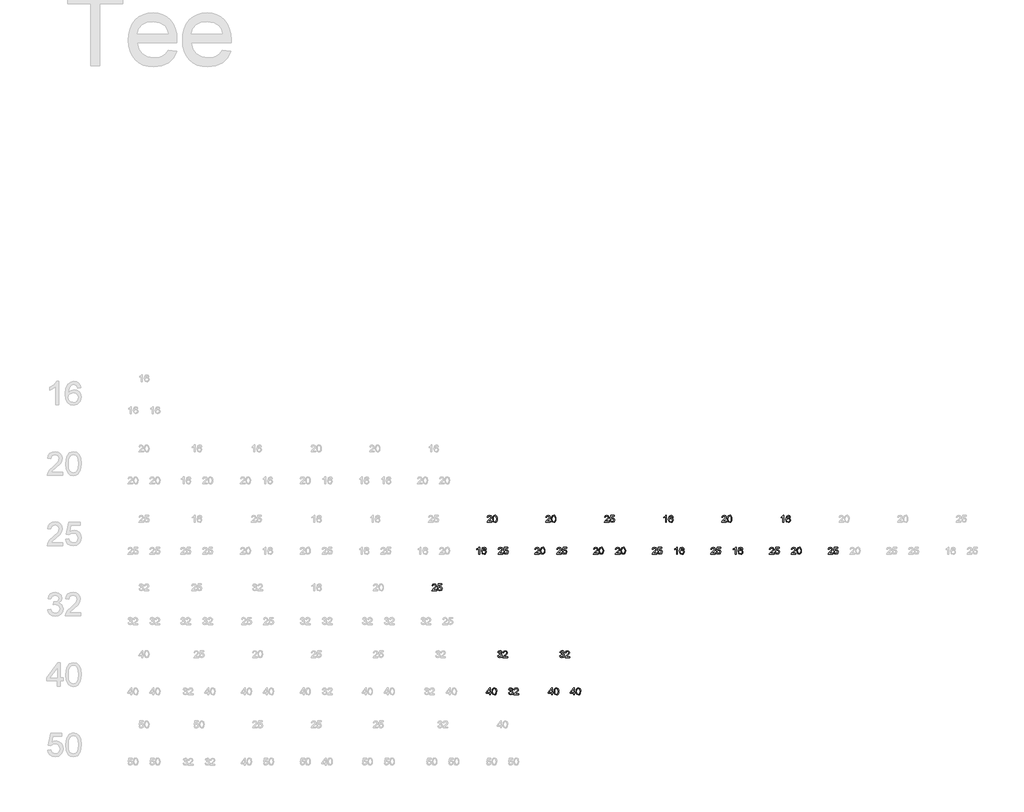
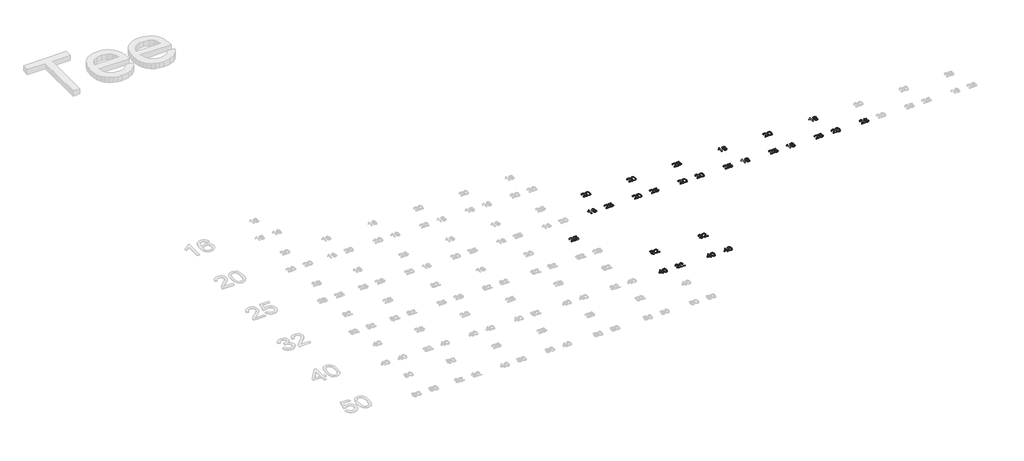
# One storey, part 19 of 26: 26 proxies.
"""IFC4 building model written with IfcOpenShell, lengths in millimetres."""

import ifcopenshell
import ifcopenshell.guid

model = None  # the IFC model being written
_history = None  # IfcOwnerHistory: only IFC2X3 demands one
_inside = {}  # id of a spatial element -> (the spatial element, [elements in it])
_under = {}  # id of a project, library or spatial element -> (it, [spatial elements below it])
_declared = {}  # id of a project -> (the project, [libraries it declares])
_typed = {}  # id of a type object -> (the type object, [elements of that type])
_made_of = {}  # id of a material, layer set ... -> (it, [elements and type objects made of it])


def new_model(schema):
    """Start an empty IFC model of exactly this schema.

    Asked for "IFC4X3", IfcOpenShell would pick the latest addendum, in which some entities
    have other attributes; the version numbers below select the first issue.
    IFC2X3 requires an IfcOwnerHistory on every rooted entity: one is made here for all.
    """
    global model, _history
    if schema == "IFC4X3":
        model = ifcopenshell.file(schema_version=(4, 3, 0, 0))
    else:
        model = ifcopenshell.file(schema=schema)
    _inside.clear()
    _under.clear()
    _declared.clear()
    _typed.clear()
    _made_of.clear()
    _history = None
    if model.schema == "IFC2X3":
        org = make("IfcOrganization", Name="unknown")
        user = make(
            "IfcPersonAndOrganization",
            ThePerson=make("IfcPerson", FamilyName="unknown"),
            TheOrganization=org,
        )
        app = make(
            "IfcApplication",
            ApplicationDeveloper=org,
            Version="unknown",
            ApplicationFullName="unknown",
            ApplicationIdentifier="unknown",
        )
        _history = make(
            "IfcOwnerHistory",
            OwningUser=user,
            OwningApplication=app,
            ChangeAction="ADDED",
            CreationDate=0,
        )
    return model


def make(cls, **values):
    """One entity of the class cls with the attributes given. An attribute that is None is left unset."""
    return model.create_entity(
        cls, **{name: value for name, value in values.items() if value is not None}
    )


def rooted(cls, **values):
    """An entity with a GlobalId (a new one), such as an element, a storey or a relation."""
    return make(cls, GlobalId=ifcopenshell.guid.new(), OwnerHistory=_history, **values)


def si_unit(unit_type, name, prefix=None):
    """IfcSIUnit, for example si_unit("LENGTHUNIT", "METRE", prefix="MILLI")."""
    return make("IfcSIUnit", UnitType=unit_type, Prefix=prefix, Name=name)


def assignment(units):
    """IfcUnitAssignment: the units of a project."""
    return None if units is None else make("IfcUnitAssignment", Units=units)


def point(xyz):
    """IfcCartesianPoint."""
    return None if xyz is None else make("IfcCartesianPoint", Coordinates=xyz)


def direction(xyz):
    """IfcDirection."""
    return None if xyz is None else make("IfcDirection", DirectionRatios=xyz)


def frame(location, z_axis=None, x_axis=None):
    """IfcAxis2Placement3D, a coordinate frame: its origin and axes. An axis left out is left unset."""
    return make(
        "IfcAxis2Placement3D",
        Location=point(location),
        Axis=direction(z_axis),
        RefDirection=direction(x_axis),
    )


def origin():
    """The frame at (0, 0, 0) with its axes left unset."""
    return frame((0.0, 0.0, 0.0))


def origin_with_axes():
    """The frame at (0, 0, 0) with the z axis (0, 0, 1) and the x axis (1, 0, 0) written out."""
    return frame((0.0, 0.0, 0.0), z_axis=(0.0, 0.0, 1.0), x_axis=(1.0, 0.0, 0.0))


def place(relative_to, where):
    """IfcLocalPlacement: puts the frame where relative to a parent placement (None: the world)."""
    return make(
        "IfcLocalPlacement", PlacementRelTo=relative_to, RelativePlacement=where
    )


def context(
    kind, dimensions, precision=None, world=None, true_north=None, identifier=None
):
    """IfcGeometricRepresentationContext, for example the 3D "Model" context."""
    return make(
        "IfcGeometricRepresentationContext",
        ContextIdentifier=identifier,
        ContextType=kind,
        CoordinateSpaceDimension=dimensions,
        Precision=precision,
        WorldCoordinateSystem=world,
        TrueNorth=true_north,
    )


def project(units=None, contexts=None):
    """IfcProject with its units and contexts."""
    return rooted(
        "IfcProject",
        Name="project",
        RepresentationContexts=contexts,
        UnitsInContext=assignment(units),
    )


def spatial(cls, under=None, at=None, **own):
    """A site, building, storey or space (cls), placed at a placement, below another one or the project."""
    s = rooted(cls, ObjectPlacement=at, **own)
    if under is not None:
        _under.setdefault(under.id(), (under, []))[1].append(s)
    return s


def polyline(points):
    """IfcPolyline through the points."""
    return make("IfcPolyline", Points=[point(p) for p in points])


def outline(outer, holes=None, kind="AREA"):
    """IfcArbitraryClosedProfileDef: a profile drawn as a closed curve; with holes, ...WithVoids."""
    if holes is None:
        return make("IfcArbitraryClosedProfileDef", ProfileType=kind, OuterCurve=outer)
    return make(
        "IfcArbitraryProfileDefWithVoids",
        ProfileType=kind,
        OuterCurve=outer,
        InnerCurves=holes,
    )


def extrude(swept, where, along, depth):
    """IfcExtrudedAreaSolid: the profile swept, set in the frame where, extruded along a direction by depth."""
    return make(
        "IfcExtrudedAreaSolid",
        SweptArea=swept,
        Position=where,
        ExtrudedDirection=direction(along),
        Depth=depth,
    )


def shape(context_of_items, identifier, shape_type, items):
    """IfcShapeRepresentation: the items that make up one representation, for example the "Body"."""
    return make(
        "IfcShapeRepresentation",
        ContextOfItems=context_of_items,
        RepresentationIdentifier=identifier,
        RepresentationType=shape_type,
        Items=items,
    )


def made_of(thing, what):
    """Note that an element or type object is made of a material, layer set ...; save() writes the relation."""
    if what is not None:
        _made_of.setdefault(what.id(), (what, []))[1].append(thing)
    return thing


def element(
    cls,
    number,
    at=None,
    inside=None,
    cuts=None,
    type_object=None,
    material=None,
    context=None,
    identifier="Body",
    shape_type=None,
    held_by="IfcProductDefinitionShape",
    body=None,
    shapes=None,
    **own,
):
    """One element of the class cls, such as IfcWall. Its Tag is "e" and its number.

    at: its placement. inside: the storey or other place that contains it. cuts: it is an
    opening in that element (IfcRelVoidsElement). A single representation is given by context,
    identifier, shape_type and body (its items); several are given by shapes. held_by: the class
    of the entity that holds the representations. save() writes the other relations.
    """
    e = rooted(cls, Tag="e%d" % number, ObjectPlacement=at, **own)
    if body is not None:
        shapes = [shape(context, identifier, shape_type, body)]
    if shapes is not None:
        e.Representation = make(held_by, Representations=shapes)
    if inside is not None:
        _inside.setdefault(inside.id(), (inside, []))[1].append(e)
    if cuts is not None:
        rooted(
            "IfcRelVoidsElement", RelatingBuildingElement=cuts, RelatedOpeningElement=e
        )
    if type_object is not None:
        _typed.setdefault(type_object.id(), (type_object, []))[1].append(e)
    return made_of(e, material)


def aggregate(whole, parts):
    """IfcRelAggregates: a whole, such as a stair, and the parts it consists of."""
    return rooted("IfcRelAggregates", RelatingObject=whole, RelatedObjects=parts)


def save(model, path):
    """Write the relations noted so far, then the file.

    IfcRelAggregates (storeys below a building ...), IfcRelContainedInSpatialStructure (elements
    in a storey), IfcRelDefinesByType, IfcRelAssociatesMaterial and IfcRelDeclares: one each for
    every whole, place, type object, material and project.
    """
    for whole, parts in _under.values():
        aggregate(whole, parts)
    for where, things in _inside.values():
        rooted(
            "IfcRelContainedInSpatialStructure",
            RelatedElements=things,
            RelatingStructure=where,
        )
    for kind, things in _typed.values():
        rooted("IfcRelDefinesByType", RelatedObjects=things, RelatingType=kind)
    for what, things in _made_of.values():
        rooted("IfcRelAssociatesMaterial", RelatedObjects=things, RelatingMaterial=what)
    for by, libraries in _declared.values():
        rooted("IfcRelDeclares", RelatingContext=by, RelatedDefinitions=libraries)
    model.write(path)


model = new_model("IFC4")

# Units and contexts
model_context = context("Model", 3, world=origin())
ifc_project = project(units=[si_unit("LENGTHUNIT", "METRE", prefix="MILLI")], contexts=[model_context])

# Site, building, storey
site = spatial("IfcSite", under=ifc_project)
building = spatial("IfcBuilding", under=site)
storey = spatial("IfcBuildingStorey", under=building, Name="Superpipe UFH", Elevation=0.0)

# Proxies
placement = place(None, origin())
element("IfcBuildingElementProxy", 1, Name="30mm Arial", ObjectType="30mm Arial", at=placement, inside=storey, context=model_context, shape_type="SweptSolid", body=[
    extrude(outline(polyline([(27013.9090947, 23688.5299634), (27010.1419831, 23688.5299634), (27010.1419831, 23712.01555), (27006.5735277, 23709.4734854), (27002.6077598, 23707.5715355), (27002.6077598, 23711.1326332), (27008.1296686, 23714.6569427), (27011.4810736, 23718.6668565), (27013.9090947, 23718.6668565), (27013.9090947, 23688.5299634)])), origin_with_axes(), (0.0, 0.0, 1.0), 2.0),
    extrude(outline(polyline([(27042.162432, 23710.6617442), (27038.3953203, 23710.1908553), (27036.9679382, 23713.3325675), (27033.1934689, 23714.8997448), (27029.7942393, 23713.9873975), (27027.2227441, 23710.5624161), (27026.1522075, 23703.8485697), (27029.4741819, 23706.8541656), (27033.5907815, 23707.8364105), (27039.9919282, 23705.150872), (27042.6333209, 23698.2126175), (27041.3898798, 23693.0144449), (27037.9685772, 23689.335625), (27033.0316008, 23688.0590745), (27025.3539036, 23691.4435888), (27022.3850959, 23702.5977709), (27025.6813186, 23715.2308386), (27033.4289134, 23718.6668565), (27039.3812441, 23716.5404985), (27042.162432, 23710.6617442)]), holes=[polyline([(27026.1522075, 23698.2714786), (27027.0240879, 23695.0083653), (27029.3417444, 23692.6392053), (27032.7372952, 23691.8261861), (27037.1776309, 23693.5110856), (27038.8662093, 23698.0875376), (27037.1997038, 23702.4690122), (27032.5827848, 23704.0692989), (27028.0247269, 23702.4690122), (27026.1522075, 23698.2714786)])]), origin_with_axes(), (0.0, 0.0, 1.0), 2.0),
])
element("IfcBuildingElementProxy", 2, Name="30mm Arial", ObjectType="30mm Arial", at=placement, inside=storey, context=model_context, shape_type="SweptSolid", body=[
    extrude(outline(polyline([(27112.8388732, 23692.297075), (27112.8388732, 23688.5299634), (27093.0615372, 23688.5299634), (27093.4662074, 23691.1272103), (27095.7544334, 23695.1260876), (27100.4706805, 23699.4928469), (27106.9748342, 23705.7689137), (27108.6008726, 23710.0363449), (27107.0668047, 23713.4907568), (27103.0605698, 23714.8997448), (27098.8851091, 23713.5238662), (27097.2995377, 23709.7199663), (27093.5324261, 23710.1908553), (27096.4202998, 23716.4963527), (27103.1415038, 23718.6668565), (27109.8847808, 23716.2535506), (27112.3679843, 23710.2644317), (27111.698439, 23706.6922975), (27109.472753, 23702.9987623), (27104.0759241, 23697.8373779), (27099.7422742, 23694.2137402), (27098.0426594, 23692.297075), (27112.8388732, 23692.297075)])), origin_with_axes(), (0.0, 0.0, 1.0), 2.0),
    extrude(outline(polyline([(27116.6059849, 23696.5350756), (27120.3730965, 23697.0059646), (27122.2713676, 23693.1248095), (27126.2077049, 23691.8261861), (27130.9313097, 23693.6324867), (27132.6162093, 23698.4259891), (27131.0379955, 23702.8994341), (27126.266566, 23704.5401878), (27122.9593069, 23703.8853579), (27120.8439854, 23702.1857431), (27117.0768738, 23702.656632), (27120.3730965, 23718.1959675), (27134.9706541, 23718.1959675), (27134.9706541, 23714.4288559), (27123.4191594, 23714.4288559), (27121.8078363, 23706.1294381), (27127.3187086, 23708.3072995), (27133.7603223, 23705.6070456), (27136.3833209, 23698.6614336), (27134.0215185, 23691.6716757), (27126.1929896, 23688.0590745), (27119.545362, 23690.3804098), (27116.6059849, 23696.5350756)])), origin_with_axes(), (0.0, 0.0, 1.0), 2.0),
])
element("IfcBuildingElementProxy", 3, Name="30mm Arial", ObjectType="30mm Arial", at=placement, inside=storey, context=model_context, shape_type="SweptSolid", body=[
    extrude(outline(polyline([(27066.017058, 23828.6157156), (27066.017058, 23824.848604), (27046.239722, 23824.848604), (27046.6443922, 23827.4458509), (27048.9326182, 23831.4447281), (27053.6488654, 23835.8114874), (27060.153019, 23842.0875543), (27061.7790574, 23846.3549854), (27060.2449895, 23849.8093973), (27056.2387546, 23851.2183854), (27052.063294, 23849.8425067), (27050.4777226, 23846.0386069), (27046.7106109, 23846.5094959), (27049.5984846, 23852.8149932), (27056.3196886, 23854.985497), (27063.0629656, 23852.5721911), (27065.5461691, 23846.5830723), (27064.8766238, 23843.0109381), (27062.6509378, 23839.3174028), (27057.2541089, 23834.1560185), (27052.920459, 23830.5323808), (27051.2208442, 23828.6157156), (27066.017058, 23828.6157156)])), origin_with_axes(), (0.0, 0.0, 1.0), 2.0),
    extrude(outline(polyline([(27069.7841697, 23839.6742484), (27070.8914945, 23848.345227), (27074.1803595, 23853.3447433), (27079.6728377, 23854.985497), (27084.0727064, 23854.0142886), (27087.1114116, 23851.2147066), (27088.8772452, 23846.7559768), (27089.5615057, 23839.6742484), (27088.4652174, 23831.040058), (27085.1873888, 23826.0295052), (27079.6728377, 23824.377715), (27072.7860867, 23827.2471946), (27069.7841697, 23839.6742484)]), holes=[polyline([(27073.5512813, 23839.681606), (27075.3171149, 23830.3263669), (27079.6728377, 23828.1448267), (27084.0285605, 23830.3337245), (27085.7943941, 23839.681606), (27084.0874216, 23848.9301594), (27079.6286919, 23851.2183854), (27075.375976, 23849.2023921), (27073.5512813, 23839.681606)])]), origin_with_axes(), (0.0, 0.0, 1.0), 2.0),
])
element("IfcBuildingElementProxy", 4, Name="30mm Arial", ObjectType="30mm Arial", at=placement, inside=storey, context=model_context, shape_type="SweptSolid", body=[
    extrude(outline(polyline([(27269.3689725, 23692.297075), (27269.3689725, 23688.5299634), (27249.5916365, 23688.5299634), (27249.9963067, 23691.1272103), (27252.2845327, 23695.1260876), (27257.0007799, 23699.4928469), (27263.5049335, 23705.7689137), (27265.130972, 23710.0363449), (27263.596904, 23713.4907568), (27259.5906691, 23714.8997448), (27255.4152085, 23713.5238662), (27253.8296371, 23709.7199663), (27250.0625254, 23710.1908553), (27252.9503991, 23716.4963527), (27259.6716031, 23718.6668565), (27266.4148801, 23716.2535506), (27268.8980836, 23710.2644317), (27268.2285383, 23706.6922975), (27266.0028523, 23702.9987623), (27260.6060234, 23697.8373779), (27256.2723735, 23694.2137402), (27254.5727587, 23692.297075), (27269.3689725, 23692.297075)])), origin_with_axes(), (0.0, 0.0, 1.0), 2.0),
    extrude(outline(polyline([(27273.1360842, 23703.3556078), (27274.243409, 23712.0265864), (27277.532274, 23717.0261028), (27283.0247522, 23718.6668565), (27287.4246209, 23717.695648), (27290.4633261, 23714.896066), (27292.2291597, 23710.4373362), (27292.9134202, 23703.3556078), (27291.8171319, 23694.7214174), (27288.5393033, 23689.7108646), (27283.0247522, 23688.0590745), (27276.1380012, 23690.928554), (27273.1360842, 23703.3556078)]), holes=[polyline([(27276.9031958, 23703.3629655), (27278.6690294, 23694.0077263), (27283.0247522, 23691.8261861), (27287.380475, 23694.015084), (27289.1463086, 23703.3629655), (27287.4393361, 23712.6115188), (27282.9806064, 23714.8997448), (27278.7278905, 23712.8837515), (27276.9031958, 23703.3629655)])]), origin_with_axes(), (0.0, 0.0, 1.0), 2.0),
])
element("IfcBuildingElementProxy", 5, Name="30mm Arial", ObjectType="30mm Arial", at=placement, inside=storey, context=model_context, shape_type="SweptSolid", body=[
    extrude(outline(polyline([(27363.1189725, 23692.297075), (27363.1189725, 23688.5299634), (27343.3416365, 23688.5299634), (27343.7463067, 23691.1272103), (27346.0345327, 23695.1260876), (27350.7507799, 23699.4928469), (27357.2549335, 23705.7689137), (27358.880972, 23710.0363449), (27357.346904, 23713.4907568), (27353.3406691, 23714.8997448), (27349.1652085, 23713.5238662), (27347.5796371, 23709.7199663), (27343.8125254, 23710.1908553), (27346.7003991, 23716.4963527), (27353.4216031, 23718.6668565), (27360.1648801, 23716.2535506), (27362.6480836, 23710.2644317), (27361.9785383, 23706.6922975), (27359.7528523, 23702.9987623), (27354.3560234, 23697.8373779), (27350.0223735, 23694.2137402), (27348.3227587, 23692.297075), (27363.1189725, 23692.297075)])), origin_with_axes(), (0.0, 0.0, 1.0), 2.0),
    extrude(outline(polyline([(27366.8860842, 23696.5350756), (27370.6531958, 23697.0059646), (27372.5514669, 23693.1248095), (27376.4878042, 23691.8261861), (27381.2114091, 23693.6324867), (27382.8963086, 23698.4259891), (27381.3180948, 23702.8994341), (27376.5466654, 23704.5401878), (27373.2394062, 23703.8853579), (27371.1240847, 23702.1857431), (27367.3569731, 23702.656632), (27370.6531958, 23718.1959675), (27385.2507534, 23718.1959675), (27385.2507534, 23714.4288559), (27373.6992587, 23714.4288559), (27372.0879356, 23706.1294381), (27377.5988079, 23708.3072995), (27384.0404216, 23705.6070456), (27386.6634202, 23698.6614336), (27384.3016178, 23691.6716757), (27376.473089, 23688.0590745), (27369.8254613, 23690.3804098), (27366.8860842, 23696.5350756)])), origin_with_axes(), (0.0, 0.0, 1.0), 2.0),
])
element("IfcBuildingElementProxy", 6, Name="30mm Arial", ObjectType="30mm Arial", at=placement, inside=storey, context=model_context, shape_type="SweptSolid", body=[
    extrude(outline(polyline([(27316.2971573, 23828.6157156), (27316.2971573, 23824.848604), (27296.5198213, 23824.848604), (27296.9244915, 23827.4458509), (27299.2127175, 23831.4447281), (27303.9289647, 23835.8114874), (27310.4331183, 23842.0875543), (27312.0591568, 23846.3549854), (27310.5250888, 23849.8093973), (27306.5188539, 23851.2183854), (27302.3433933, 23849.8425067), (27300.7578219, 23846.0386069), (27296.9907102, 23846.5094959), (27299.8785839, 23852.8149932), (27306.5997879, 23854.985497), (27313.3430649, 23852.5721911), (27315.8262684, 23846.5830723), (27315.1567232, 23843.0109381), (27312.9310371, 23839.3174028), (27307.5342082, 23834.1560185), (27303.2005583, 23830.5323808), (27301.5009435, 23828.6157156), (27316.2971573, 23828.6157156)])), origin_with_axes(), (0.0, 0.0, 1.0), 2.0),
    extrude(outline(polyline([(27320.064269, 23839.6742484), (27321.1715938, 23848.345227), (27324.4604588, 23853.3447433), (27329.952937, 23854.985497), (27334.3528057, 23854.0142886), (27337.3915109, 23851.2147066), (27339.1573445, 23846.7559768), (27339.841605, 23839.6742484), (27338.7453167, 23831.040058), (27335.4674881, 23826.0295052), (27329.952937, 23824.377715), (27323.0661861, 23827.2471946), (27320.064269, 23839.6742484)]), holes=[polyline([(27323.8313806, 23839.681606), (27325.5972142, 23830.3263669), (27329.952937, 23828.1448267), (27334.3086598, 23830.3337245), (27336.0744934, 23839.681606), (27334.3675209, 23848.9301594), (27329.9087912, 23851.2183854), (27325.6560753, 23849.2023921), (27323.8313806, 23839.681606)])]), origin_with_axes(), (0.0, 0.0, 1.0), 2.0),
])
element("IfcBuildingElementProxy", 7, Name="30mm Arial", ObjectType="30mm Arial", at=placement, inside=storey, context=model_context, shape_type="SweptSolid", body=[
    extrude(outline(polyline([(27519.6490718, 23692.297075), (27519.6490718, 23688.5299634), (27499.8717358, 23688.5299634), (27500.276406, 23691.1272103), (27502.564632, 23695.1260876), (27507.2808792, 23699.4928469), (27513.7850328, 23705.7689137), (27515.4110713, 23710.0363449), (27513.8770033, 23713.4907568), (27509.8707684, 23714.8997448), (27505.6953078, 23713.5238662), (27504.1097364, 23709.7199663), (27500.3426247, 23710.1908553), (27503.2304984, 23716.4963527), (27509.9517025, 23718.6668565), (27516.6949794, 23716.2535506), (27519.1781829, 23710.2644317), (27518.5086377, 23706.6922975), (27516.2829516, 23702.9987623), (27510.8861227, 23697.8373779), (27506.5524728, 23694.2137402), (27504.852858, 23692.297075), (27519.6490718, 23692.297075)])), origin_with_axes(), (0.0, 0.0, 1.0), 2.0),
    extrude(outline(polyline([(27523.4161835, 23703.3556078), (27524.5235083, 23712.0265864), (27527.8123733, 23717.0261028), (27533.3048515, 23718.6668565), (27537.7047202, 23717.695648), (27540.7434254, 23714.896066), (27542.509259, 23710.4373362), (27543.1935195, 23703.3556078), (27542.0972312, 23694.7214174), (27538.8194026, 23689.7108646), (27533.3048515, 23688.0590745), (27526.4181006, 23690.928554), (27523.4161835, 23703.3556078)]), holes=[polyline([(27527.1832951, 23703.3629655), (27528.9491287, 23694.0077263), (27533.3048515, 23691.8261861), (27537.6605743, 23694.015084), (27539.4264079, 23703.3629655), (27537.7194354, 23712.6115188), (27533.2607057, 23714.8997448), (27529.0079898, 23712.8837515), (27527.1832951, 23703.3629655)])]), origin_with_axes(), (0.0, 0.0, 1.0), 2.0),
])
element("IfcBuildingElementProxy", 8, Name="30mm Arial", ObjectType="30mm Arial", at=placement, inside=storey, context=model_context, shape_type="SweptSolid", body=[
    extrude(outline(polyline([(27613.3990718, 23692.297075), (27613.3990718, 23688.5299634), (27593.6217358, 23688.5299634), (27594.026406, 23691.1272103), (27596.314632, 23695.1260876), (27601.0308792, 23699.4928469), (27607.5350328, 23705.7689137), (27609.1610713, 23710.0363449), (27607.6270033, 23713.4907568), (27603.6207684, 23714.8997448), (27599.4453078, 23713.5238662), (27597.8597364, 23709.7199663), (27594.0926247, 23710.1908553), (27596.9804984, 23716.4963527), (27603.7017025, 23718.6668565), (27610.4449794, 23716.2535506), (27612.9281829, 23710.2644317), (27612.2586377, 23706.6922975), (27610.0329516, 23702.9987623), (27604.6361227, 23697.8373779), (27600.3024728, 23694.2137402), (27598.602858, 23692.297075), (27613.3990718, 23692.297075)])), origin_with_axes(), (0.0, 0.0, 1.0), 2.0),
    extrude(outline(polyline([(27617.1661835, 23703.3556078), (27618.2735083, 23712.0265864), (27621.5623733, 23717.0261028), (27627.0548515, 23718.6668565), (27631.4547202, 23717.695648), (27634.4934254, 23714.896066), (27636.259259, 23710.4373362), (27636.9435195, 23703.3556078), (27635.8472312, 23694.7214174), (27632.5694026, 23689.7108646), (27627.0548515, 23688.0590745), (27620.1681006, 23690.928554), (27617.1661835, 23703.3556078)]), holes=[polyline([(27620.9332951, 23703.3629655), (27622.6991287, 23694.0077263), (27627.0548515, 23691.8261861), (27631.4105743, 23694.015084), (27633.1764079, 23703.3629655), (27631.4694354, 23712.6115188), (27627.0107057, 23714.8997448), (27622.7579898, 23712.8837515), (27620.9332951, 23703.3629655)])]), origin_with_axes(), (0.0, 0.0, 1.0), 2.0),
])
element("IfcBuildingElementProxy", 9, Name="30mm Arial", ObjectType="30mm Arial", at=placement, inside=storey, context=model_context, shape_type="SweptSolid", body=[
    extrude(outline(polyline([(27566.5772567, 23828.6157156), (27566.5772567, 23824.848604), (27546.7999206, 23824.848604), (27547.2045908, 23827.4458509), (27549.4928168, 23831.4447281), (27554.209064, 23835.8114874), (27560.7132176, 23842.0875543), (27562.3392561, 23846.3549854), (27560.8051881, 23849.8093973), (27556.7989532, 23851.2183854), (27552.6234926, 23849.8425067), (27551.0379212, 23846.0386069), (27547.2708095, 23846.5094959), (27550.1586832, 23852.8149932), (27556.8798873, 23854.985497), (27563.6231642, 23852.5721911), (27566.1063677, 23846.5830723), (27565.4368225, 23843.0109381), (27563.2111364, 23839.3174028), (27557.8143075, 23834.1560185), (27553.4806576, 23830.5323808), (27551.7810428, 23828.6157156), (27566.5772567, 23828.6157156)])), origin_with_axes(), (0.0, 0.0, 1.0), 2.0),
    extrude(outline(polyline([(27570.3443683, 23832.8537162), (27574.1114799, 23833.3246051), (27576.009751, 23829.4434501), (27579.9460884, 23828.1448267), (27584.6696932, 23829.9511272), (27586.3545927, 23834.7446296), (27584.776379, 23839.2180747), (27580.0049495, 23840.8588284), (27576.6976903, 23840.2039985), (27574.5823689, 23838.5043836), (27570.8152572, 23838.9752726), (27574.1114799, 23854.5146081), (27588.7090375, 23854.5146081), (27588.7090375, 23850.7474964), (27577.1575428, 23850.7474964), (27575.5462197, 23842.4480786), (27581.057092, 23844.62594), (27587.4987057, 23841.9256862), (27590.1217043, 23834.9800741), (27587.7599019, 23827.9903162), (27579.9313731, 23824.377715), (27573.2837454, 23826.6990504), (27570.3443683, 23832.8537162)])), origin_with_axes(), (0.0, 0.0, 1.0), 2.0),
])
element("IfcBuildingElementProxy", 10, Name="30mm Arial", ObjectType="30mm Arial", at=placement, inside=storey, context=model_context, shape_type="SweptSolid", body=[
    extrude(outline(polyline([(27769.9291712, 23692.297075), (27769.9291712, 23688.5299634), (27750.1518351, 23688.5299634), (27750.5565053, 23691.1272103), (27752.8447313, 23695.1260876), (27757.5609785, 23699.4928469), (27764.0651322, 23705.7689137), (27765.6911706, 23710.0363449), (27764.1571027, 23713.4907568), (27760.1508677, 23714.8997448), (27755.9754071, 23713.5238662), (27754.3898357, 23709.7199663), (27750.622724, 23710.1908553), (27753.5105977, 23716.4963527), (27760.2318018, 23718.6668565), (27766.9750787, 23716.2535506), (27769.4582822, 23710.2644317), (27768.788737, 23706.6922975), (27766.5630509, 23702.9987623), (27761.166222, 23697.8373779), (27756.8325721, 23694.2137402), (27755.1329573, 23692.297075), (27769.9291712, 23692.297075)])), origin_with_axes(), (0.0, 0.0, 1.0), 2.0),
    extrude(outline(polyline([(27773.6962828, 23696.5350756), (27777.4633944, 23697.0059646), (27779.3616655, 23693.1248095), (27783.2980029, 23691.8261861), (27788.0216077, 23693.6324867), (27789.7065072, 23698.4259891), (27788.1282935, 23702.8994341), (27783.356864, 23704.5401878), (27780.0496048, 23703.8853579), (27777.9342834, 23702.1857431), (27774.1671717, 23702.656632), (27777.4633944, 23718.1959675), (27792.060952, 23718.1959675), (27792.060952, 23714.4288559), (27780.5094573, 23714.4288559), (27778.8981342, 23706.1294381), (27784.4090065, 23708.3072995), (27790.8506202, 23705.6070456), (27793.4736188, 23698.6614336), (27791.1118164, 23691.6716757), (27783.2832876, 23688.0590745), (27776.6356599, 23690.3804098), (27773.6962828, 23696.5350756)])), origin_with_axes(), (0.0, 0.0, 1.0), 2.0),
])
element("IfcBuildingElementProxy", 11, Name="30mm Arial", ObjectType="30mm Arial", at=placement, inside=storey, context=model_context, shape_type="SweptSolid", body=[
    extrude(outline(polyline([(27858.4993927, 23688.5299634), (27854.732281, 23688.5299634), (27854.732281, 23712.01555), (27851.1638257, 23709.4734854), (27847.1980578, 23707.5715355), (27847.1980578, 23711.1326332), (27852.7199665, 23714.6569427), (27856.0713715, 23718.6668565), (27858.4993927, 23718.6668565), (27858.4993927, 23688.5299634)])), origin_with_axes(), (0.0, 0.0, 1.0), 2.0),
    extrude(outline(polyline([(27886.7527299, 23710.6617442), (27882.9856183, 23710.1908553), (27881.5582361, 23713.3325675), (27877.7837669, 23714.8997448), (27874.3845372, 23713.9873975), (27871.8130421, 23710.5624161), (27870.7425055, 23703.8485697), (27874.0644799, 23706.8541656), (27878.1810794, 23707.8364105), (27884.5822261, 23705.150872), (27887.2236188, 23698.2126175), (27885.9801777, 23693.0144449), (27882.5588751, 23689.335625), (27877.6218988, 23688.0590745), (27869.9442015, 23691.4435888), (27866.9753938, 23702.5977709), (27870.2716165, 23715.2308386), (27878.0192113, 23718.6668565), (27883.971542, 23716.5404985), (27886.7527299, 23710.6617442)]), holes=[polyline([(27870.7425055, 23698.2714786), (27871.6143858, 23695.0083653), (27873.9320424, 23692.6392053), (27877.3275932, 23691.8261861), (27881.7679289, 23693.5110856), (27883.4565072, 23698.0875376), (27881.7900018, 23702.4690122), (27877.1730827, 23704.0692989), (27872.6150248, 23702.4690122), (27870.7425055, 23698.2714786)])]), origin_with_axes(), (0.0, 0.0, 1.0), 2.0),
])
element("IfcBuildingElementProxy", 12, Name="30mm Arial", ObjectType="30mm Arial", at=placement, inside=storey, context=model_context, shape_type="SweptSolid", body=[
    extrude(outline(polyline([(27811.6775775, 23824.848604), (27807.9104658, 23824.848604), (27807.9104658, 23848.3341905), (27804.3420105, 23845.792126), (27800.3762426, 23843.890176), (27800.3762426, 23847.4512738), (27805.8981513, 23850.9755833), (27809.2495563, 23854.985497), (27811.6775775, 23854.985497), (27811.6775775, 23824.848604)])), origin_with_axes(), (0.0, 0.0, 1.0), 2.0),
    extrude(outline(polyline([(27839.9309147, 23846.9803848), (27836.1638031, 23846.5094959), (27834.7364209, 23849.6512081), (27830.9619517, 23851.2183854), (27827.562722, 23850.306038), (27824.9912269, 23846.8810567), (27823.9206903, 23840.1672103), (27827.2426647, 23843.1728062), (27831.3592642, 23844.1550511), (27837.7604109, 23841.4695125), (27840.4018037, 23834.5312581), (27839.1583625, 23829.3330855), (27835.73706, 23825.6542655), (27830.8000836, 23824.377715), (27823.1223863, 23827.7622294), (27820.1535786, 23838.9164115), (27823.4498013, 23851.5494792), (27831.1973961, 23854.985497), (27837.1497268, 23852.8591391), (27839.9309147, 23846.9803848)]), holes=[polyline([(27823.9206903, 23834.5901192), (27824.7925706, 23831.3270059), (27827.1102272, 23828.9578459), (27830.505778, 23828.1448267), (27834.9461137, 23829.8297262), (27836.634692, 23834.4061782), (27834.9681866, 23838.7876528), (27830.3512675, 23840.3879395), (27825.7932096, 23838.7876528), (27823.9206903, 23834.5901192)])]), origin_with_axes(), (0.0, 0.0, 1.0), 2.0),
])
element("IfcBuildingElementProxy", 13, Name="30mm Arial", ObjectType="30mm Arial", at=placement, inside=storey, context=model_context, shape_type="SweptSolid", body=[
    extrude(outline(polyline([(28020.2092705, 23692.297075), (28020.2092705, 23688.5299634), (28000.4319344, 23688.5299634), (28000.8366046, 23691.1272103), (28003.1248306, 23695.1260876), (28007.8410778, 23699.4928469), (28014.3452315, 23705.7689137), (28015.9712699, 23710.0363449), (28014.437202, 23713.4907568), (28010.430967, 23714.8997448), (28006.2555064, 23713.5238662), (28004.669935, 23709.7199663), (28000.9028234, 23710.1908553), (28003.790697, 23716.4963527), (28010.5119011, 23718.6668565), (28017.255178, 23716.2535506), (28019.7383815, 23710.2644317), (28019.0688363, 23706.6922975), (28016.8431502, 23702.9987623), (28011.4463213, 23697.8373779), (28007.1126714, 23694.2137402), (28005.4130566, 23692.297075), (28020.2092705, 23692.297075)])), origin_with_axes(), (0.0, 0.0, 1.0), 2.0),
    extrude(outline(polyline([(28023.9763821, 23696.5350756), (28027.7434937, 23697.0059646), (28029.6417648, 23693.1248095), (28033.5781022, 23691.8261861), (28038.301707, 23693.6324867), (28039.9866065, 23698.4259891), (28038.4083928, 23702.8994341), (28033.6369633, 23704.5401878), (28030.3297042, 23703.8853579), (28028.2143827, 23702.1857431), (28024.4472711, 23702.656632), (28027.7434937, 23718.1959675), (28042.3410513, 23718.1959675), (28042.3410513, 23714.4288559), (28030.7895566, 23714.4288559), (28029.1782335, 23706.1294381), (28034.6891058, 23708.3072995), (28041.1307195, 23705.6070456), (28043.7537182, 23698.6614336), (28041.3919157, 23691.6716757), (28033.5633869, 23688.0590745), (28026.9157592, 23690.3804098), (28023.9763821, 23696.5350756)])), origin_with_axes(), (0.0, 0.0, 1.0), 2.0),
])
element("IfcBuildingElementProxy", 14, Name="30mm Arial", ObjectType="30mm Arial", at=placement, inside=storey, context=model_context, shape_type="SweptSolid", body=[
    extrude(outline(polyline([(28108.779492, 23688.5299634), (28105.0123803, 23688.5299634), (28105.0123803, 23712.01555), (28101.443925, 23709.4734854), (28097.4781571, 23707.5715355), (28097.4781571, 23711.1326332), (28103.0000658, 23714.6569427), (28106.3514708, 23718.6668565), (28108.779492, 23718.6668565), (28108.779492, 23688.5299634)])), origin_with_axes(), (0.0, 0.0, 1.0), 2.0),
    extrude(outline(polyline([(28137.0328292, 23710.6617442), (28133.2657176, 23710.1908553), (28131.8383354, 23713.3325675), (28128.0638662, 23714.8997448), (28124.6646365, 23713.9873975), (28122.0931414, 23710.5624161), (28121.0226048, 23703.8485697), (28124.3445792, 23706.8541656), (28128.4611787, 23707.8364105), (28134.8623254, 23705.150872), (28137.5037182, 23698.2126175), (28136.260277, 23693.0144449), (28132.8389745, 23689.335625), (28127.9019981, 23688.0590745), (28120.2243008, 23691.4435888), (28117.2554931, 23702.5977709), (28120.5517158, 23715.2308386), (28128.2993106, 23718.6668565), (28134.2516413, 23716.5404985), (28137.0328292, 23710.6617442)]), holes=[polyline([(28121.0226048, 23698.2714786), (28121.8944851, 23695.0083653), (28124.2121417, 23692.6392053), (28127.6076925, 23691.8261861), (28132.0480282, 23693.5110856), (28133.7366065, 23698.0875376), (28132.0701011, 23702.4690122), (28127.4531821, 23704.0692989), (28122.8951241, 23702.4690122), (28121.0226048, 23698.2714786)])]), origin_with_axes(), (0.0, 0.0, 1.0), 2.0),
])
element("IfcBuildingElementProxy", 15, Name="30mm Arial", ObjectType="30mm Arial", at=placement, inside=storey, context=model_context, shape_type="SweptSolid", body=[
    extrude(outline(polyline([(28067.1374553, 23828.6157156), (28067.1374553, 23824.848604), (28047.3601192, 23824.848604), (28047.7647894, 23827.4458509), (28050.0530154, 23831.4447281), (28054.7692626, 23835.8114874), (28061.2734163, 23842.0875543), (28062.8994547, 23846.3549854), (28061.3653868, 23849.8093973), (28057.3591518, 23851.2183854), (28053.1836912, 23849.8425067), (28051.5981198, 23846.0386069), (28047.8310082, 23846.5094959), (28050.7188818, 23852.8149932), (28057.4400859, 23854.985497), (28064.1833629, 23852.5721911), (28066.6665663, 23846.5830723), (28065.9970211, 23843.0109381), (28063.771335, 23839.3174028), (28058.3745061, 23834.1560185), (28054.0408562, 23830.5323808), (28052.3412414, 23828.6157156), (28067.1374553, 23828.6157156)])), origin_with_axes(), (0.0, 0.0, 1.0), 2.0),
    extrude(outline(polyline([(28070.9045669, 23839.6742484), (28072.0118917, 23848.345227), (28075.3007567, 23853.3447433), (28080.7932349, 23854.985497), (28085.1931036, 23854.0142886), (28088.2318089, 23851.2147066), (28089.9976425, 23846.7559768), (28090.681903, 23839.6742484), (28089.5856146, 23831.040058), (28086.307786, 23826.0295052), (28080.7932349, 23824.377715), (28073.906484, 23827.2471946), (28070.9045669, 23839.6742484)]), holes=[polyline([(28074.6716785, 23839.681606), (28076.4375121, 23830.3263669), (28080.7932349, 23828.1448267), (28085.1489578, 23830.3337245), (28086.9147913, 23839.681606), (28085.2078189, 23848.9301594), (28080.7490891, 23851.2183854), (28076.4963732, 23849.2023921), (28074.6716785, 23839.681606)])]), origin_with_axes(), (0.0, 0.0, 1.0), 2.0),
])
element("IfcBuildingElementProxy", 16, Name="30mm Arial", ObjectType="30mm Arial", at=placement, inside=storey, context=model_context, shape_type="SweptSolid", body=[
    extrude(outline(polyline([(28270.4893698, 23692.297075), (28270.4893698, 23688.5299634), (28250.7120337, 23688.5299634), (28251.1167039, 23691.1272103), (28253.4049299, 23695.1260876), (28258.1211771, 23699.4928469), (28264.6253308, 23705.7689137), (28266.2513692, 23710.0363449), (28264.7173013, 23713.4907568), (28260.7110663, 23714.8997448), (28256.5356057, 23713.5238662), (28254.9500343, 23709.7199663), (28251.1829227, 23710.1908553), (28254.0707963, 23716.4963527), (28260.7920004, 23718.6668565), (28267.5352774, 23716.2535506), (28270.0184808, 23710.2644317), (28269.3489356, 23706.6922975), (28267.1232495, 23702.9987623), (28261.7264207, 23697.8373779), (28257.3927707, 23694.2137402), (28255.6931559, 23692.297075), (28270.4893698, 23692.297075)])), origin_with_axes(), (0.0, 0.0, 1.0), 2.0),
    extrude(outline(polyline([(28274.2564814, 23696.5350756), (28278.023593, 23697.0059646), (28279.9218641, 23693.1248095), (28283.8582015, 23691.8261861), (28288.5818063, 23693.6324867), (28290.2667058, 23698.4259891), (28288.6884921, 23702.8994341), (28283.9170626, 23704.5401878), (28280.6098035, 23703.8853579), (28278.494482, 23702.1857431), (28274.7273704, 23702.656632), (28278.023593, 23718.1959675), (28292.6211506, 23718.1959675), (28292.6211506, 23714.4288559), (28281.069656, 23714.4288559), (28279.4583328, 23706.1294381), (28284.9692051, 23708.3072995), (28291.4108188, 23705.6070456), (28294.0338175, 23698.6614336), (28291.6720151, 23691.6716757), (28283.8434862, 23688.0590745), (28277.1958585, 23690.3804098), (28274.2564814, 23696.5350756)])), origin_with_axes(), (0.0, 0.0, 1.0), 2.0),
])
element("IfcBuildingElementProxy", 17, Name="30mm Arial", ObjectType="30mm Arial", at=placement, inside=storey, context=model_context, shape_type="SweptSolid", body=[
    extrude(outline(polyline([(28364.2393698, 23692.297075), (28364.2393698, 23688.5299634), (28344.4620337, 23688.5299634), (28344.8667039, 23691.1272103), (28347.1549299, 23695.1260876), (28351.8711771, 23699.4928469), (28358.3753308, 23705.7689137), (28360.0013692, 23710.0363449), (28358.4673013, 23713.4907568), (28354.4610663, 23714.8997448), (28350.2856057, 23713.5238662), (28348.7000343, 23709.7199663), (28344.9329227, 23710.1908553), (28347.8207963, 23716.4963527), (28354.5420004, 23718.6668565), (28361.2852774, 23716.2535506), (28363.7684808, 23710.2644317), (28363.0989356, 23706.6922975), (28360.8732495, 23702.9987623), (28355.4764207, 23697.8373779), (28351.1427707, 23694.2137402), (28349.4431559, 23692.297075), (28364.2393698, 23692.297075)])), origin_with_axes(), (0.0, 0.0, 1.0), 2.0),
    extrude(outline(polyline([(28368.0064814, 23703.3556078), (28369.1138062, 23712.0265864), (28372.4026713, 23717.0261028), (28377.8951494, 23718.6668565), (28382.2950181, 23717.695648), (28385.3337234, 23714.896066), (28387.099557, 23710.4373362), (28387.7838175, 23703.3556078), (28386.6875291, 23694.7214174), (28383.4097005, 23689.7108646), (28377.8951494, 23688.0590745), (28371.0083985, 23690.928554), (28368.0064814, 23703.3556078)]), holes=[polyline([(28371.773593, 23703.3629655), (28373.5394266, 23694.0077263), (28377.8951494, 23691.8261861), (28382.2508723, 23694.015084), (28384.0167058, 23703.3629655), (28382.3097334, 23712.6115188), (28377.8510036, 23714.8997448), (28373.5982877, 23712.8837515), (28371.773593, 23703.3629655)])]), origin_with_axes(), (0.0, 0.0, 1.0), 2.0),
])
element("IfcBuildingElementProxy", 18, Name="30mm Arial", ObjectType="30mm Arial", at=placement, inside=storey, context=model_context, shape_type="SweptSolid", body=[
    extrude(outline(polyline([(28312.2377761, 23824.848604), (28308.4706645, 23824.848604), (28308.4706645, 23848.3341905), (28304.9022091, 23845.792126), (28300.9364412, 23843.890176), (28300.9364412, 23847.4512738), (28306.4583499, 23850.9755833), (28309.8097549, 23854.985497), (28312.2377761, 23854.985497), (28312.2377761, 23824.848604)])), origin_with_axes(), (0.0, 0.0, 1.0), 2.0),
    extrude(outline(polyline([(28340.4911133, 23846.9803848), (28336.7240017, 23846.5094959), (28335.2966195, 23849.6512081), (28331.5221503, 23851.2183854), (28328.1229206, 23850.306038), (28325.5514255, 23846.8810567), (28324.4808889, 23840.1672103), (28327.8028633, 23843.1728062), (28331.9194628, 23844.1550511), (28338.3206095, 23841.4695125), (28340.9620023, 23834.5312581), (28339.7185611, 23829.3330855), (28336.2972586, 23825.6542655), (28331.3602822, 23824.377715), (28323.682585, 23827.7622294), (28320.7137773, 23838.9164115), (28324.0099999, 23851.5494792), (28331.7575948, 23854.985497), (28337.7099254, 23852.8591391), (28340.4911133, 23846.9803848)]), holes=[polyline([(28324.4808889, 23834.5901192), (28325.3527692, 23831.3270059), (28327.6704258, 23828.9578459), (28331.0659766, 23828.1448267), (28335.5063123, 23829.8297262), (28337.1948906, 23834.4061782), (28335.5283852, 23838.7876528), (28330.9114662, 23840.3879395), (28326.3534082, 23838.7876528), (28324.4808889, 23834.5901192)])]), origin_with_axes(), (0.0, 0.0, 1.0), 2.0),
])
element("IfcBuildingElementProxy", 19, Name="30mm Arial", ObjectType="30mm Arial", at=placement, inside=storey, context=model_context, shape_type="SweptSolid", body=[
    extrude(outline(polyline([(28520.7694691, 23692.297075), (28520.7694691, 23688.5299634), (28500.992133, 23688.5299634), (28501.3968032, 23691.1272103), (28503.6850292, 23695.1260876), (28508.4012764, 23699.4928469), (28514.9054301, 23705.7689137), (28516.5314685, 23710.0363449), (28514.9974006, 23713.4907568), (28510.9911657, 23714.8997448), (28506.815705, 23713.5238662), (28505.2301336, 23709.7199663), (28501.463022, 23710.1908553), (28504.3508956, 23716.4963527), (28511.0720997, 23718.6668565), (28517.8153767, 23716.2535506), (28520.2985801, 23710.2644317), (28519.6290349, 23706.6922975), (28517.4033488, 23702.9987623), (28512.00652, 23697.8373779), (28507.6728701, 23694.2137402), (28505.9732552, 23692.297075), (28520.7694691, 23692.297075)])), origin_with_axes(), (0.0, 0.0, 1.0), 2.0),
    extrude(outline(polyline([(28524.5365807, 23696.5350756), (28528.3036923, 23697.0059646), (28530.2019634, 23693.1248095), (28534.1383008, 23691.8261861), (28538.8619056, 23693.6324867), (28540.5468051, 23698.4259891), (28538.9685914, 23702.8994341), (28534.1971619, 23704.5401878), (28530.8899028, 23703.8853579), (28528.7745813, 23702.1857431), (28525.0074697, 23702.656632), (28528.3036923, 23718.1959675), (28542.9012499, 23718.1959675), (28542.9012499, 23714.4288559), (28531.3497553, 23714.4288559), (28529.7384321, 23706.1294381), (28535.2493044, 23708.3072995), (28541.6909182, 23705.6070456), (28544.3139168, 23698.6614336), (28541.9521144, 23691.6716757), (28534.1235855, 23688.0590745), (28527.4759579, 23690.3804098), (28524.5365807, 23696.5350756)])), origin_with_axes(), (0.0, 0.0, 1.0), 2.0),
])
element("IfcBuildingElementProxy", 20, Name="30mm Arial", ObjectType="30mm Arial", at=placement, inside=storey, context=model_context, shape_type="SweptSolid", body=[
    extrude(outline(polyline([(27056.4653403, 23088.5299634), (27056.4653403, 23095.5932977), (27042.8095606, 23095.5932977), (27042.8095606, 23099.3604094), (27057.4071182, 23118.1959675), (27060.2324519, 23118.1959675), (27060.2324519, 23099.3604094), (27063.9995636, 23099.3604094), (27063.9995636, 23095.5932977), (27060.2324519, 23095.5932977), (27060.2324519, 23088.5299634), (27056.4653403, 23088.5299634)]), holes=[polyline([(27056.4653403, 23099.3604094), (27056.4653403, 23111.0001957), (27047.4448738, 23099.3604094), (27056.4653403, 23099.3604094)])]), origin_with_axes(), (0.0, 0.0, 1.0), 2.0),
    extrude(outline(polyline([(27067.2957862, 23103.3556078), (27068.403111, 23112.0265864), (27071.6919761, 23117.0261028), (27077.1844543, 23118.6668565), (27081.5843229, 23117.695648), (27084.6230282, 23114.896066), (27086.3888618, 23110.4373362), (27087.0731223, 23103.3556078), (27085.9768339, 23094.7214174), (27082.6990054, 23089.7108646), (27077.1844543, 23088.0590745), (27070.2977033, 23090.928554), (27067.2957862, 23103.3556078)]), holes=[polyline([(27071.0628979, 23103.3629655), (27072.8287314, 23094.0077263), (27077.1844543, 23091.8261861), (27081.5401771, 23094.015084), (27083.3060107, 23103.3629655), (27081.5990382, 23112.6115188), (27077.1403084, 23114.8997448), (27072.8875926, 23112.8837515), (27071.0628979, 23103.3629655)])]), origin_with_axes(), (0.0, 0.0, 1.0), 2.0),
])
element("IfcBuildingElementProxy", 21, Name="30mm Arial", ObjectType="30mm Arial", at=placement, inside=storey, context=model_context, shape_type="SweptSolid", body=[
    extrude(outline(polyline([(27137.9722275, 23096.5350756), (27141.7393391, 23097.0059646), (27143.8178724, 23093.0401967), (27147.7063851, 23091.8261861), (27152.2828371, 23093.4963703), (27153.9824519, 23097.631364), (27152.2975524, 23101.5272343), (27148.015406, 23103.0686599), (27145.3740132, 23102.656632), (27145.7933987, 23106.4237437), (27150.671514, 23107.4611709), (27152.5697851, 23110.7868241), (27151.1939064, 23113.7335589), (27147.647524, 23114.8997448), (27144.0569957, 23113.7225224), (27142.2102281, 23110.1908553), (27138.4431164, 23110.6617442), (27141.5259676, 23116.5699291), (27147.5150865, 23118.6668565), (27152.0584291, 23117.6331081), (27155.2369295, 23114.8077743), (27156.3368967, 23111.0075533), (27155.2921118, 23107.5347473), (27152.2019031, 23105.0405074), (27156.3074661, 23102.4653334), (27157.7495636, 23097.5651452), (27154.8653687, 23090.8255471), (27147.5739476, 23088.0590745), (27140.9667869, 23090.4208769), (27137.9722275, 23096.5350756)])), origin_with_axes(), (0.0, 0.0, 1.0), 2.0),
    extrude(outline(polyline([(27180.3522333, 23092.297075), (27180.3522333, 23088.5299634), (27160.5748973, 23088.5299634), (27160.9795675, 23091.1272103), (27163.2677935, 23095.1260876), (27167.9840407, 23099.4928469), (27174.4881943, 23105.7689137), (27176.1142328, 23110.0363449), (27174.5801648, 23113.4907568), (27170.5739299, 23114.8997448), (27166.3984693, 23113.5238662), (27164.8128979, 23109.7199663), (27161.0457862, 23110.1908553), (27163.9336599, 23116.4963527), (27170.6548639, 23118.6668565), (27177.3981409, 23116.2535506), (27179.8813444, 23110.2644317), (27179.2117992, 23106.6922975), (27176.9861131, 23102.9987623), (27171.5892842, 23097.8373779), (27167.2556343, 23094.2137402), (27165.5560195, 23092.297075), (27180.3522333, 23092.297075)])), origin_with_axes(), (0.0, 0.0, 1.0), 2.0),
])
element("IfcBuildingElementProxy", 22, Name="30mm Arial", ObjectType="30mm Arial", at=placement, inside=storey, context=model_context, shape_type="SweptSolid", body=[
    extrude(outline(polyline([(27091.1504123, 23255.3537162), (27094.9175239, 23255.8246051), (27096.9960572, 23251.8588372), (27100.8845699, 23250.6448267), (27105.4610219, 23252.3150109), (27107.1606367, 23256.4500045), (27105.4757372, 23260.3458749), (27101.1935908, 23261.8873004), (27098.552198, 23261.4752726), (27098.9715835, 23265.2423842), (27103.8496988, 23266.2798114), (27105.7479699, 23269.6054647), (27104.3720912, 23272.5521995), (27100.8257088, 23273.7183854), (27097.2351805, 23272.541163), (27095.3884129, 23269.0094959), (27091.6213013, 23269.4803848), (27094.7041524, 23275.3885696), (27100.6932713, 23277.485497), (27105.2366139, 23276.4517486), (27108.4151143, 23273.6264149), (27109.5150815, 23269.8261939), (27108.4702966, 23266.3533878), (27105.3800879, 23263.8591479), (27109.4856509, 23261.283974), (27110.9277484, 23256.3837858), (27108.0435535, 23249.6441876), (27100.7521324, 23246.877715), (27094.1449717, 23249.2395174), (27091.1504123, 23255.3537162)])), origin_with_axes(), (0.0, 0.0, 1.0), 2.0),
    extrude(outline(polyline([(27133.5304181, 23251.1157156), (27133.5304181, 23247.348604), (27113.7530821, 23247.348604), (27114.1577523, 23249.9458509), (27116.4459783, 23253.9447281), (27121.1622255, 23258.3114874), (27127.6663791, 23264.5875543), (27129.2924176, 23268.8549854), (27127.7583496, 23272.3093973), (27123.7521147, 23273.7183854), (27119.5766541, 23272.3425067), (27117.9910827, 23268.5386069), (27114.223971, 23269.0094959), (27117.1118447, 23275.3149932), (27123.8330488, 23277.485497), (27130.5763257, 23275.0721911), (27133.0595292, 23269.0830723), (27132.389984, 23265.5109381), (27130.1642979, 23261.8174028), (27124.767469, 23256.6560185), (27120.4338191, 23253.0323808), (27118.7342043, 23251.1157156), (27133.5304181, 23251.1157156)])), origin_with_axes(), (0.0, 0.0, 1.0), 2.0),
])
element("IfcBuildingElementProxy", 23, Name="30mm Arial", ObjectType="30mm Arial", at=placement, inside=storey, context=model_context, shape_type="SweptSolid", body=[
    extrude(outline(polyline([(27321.4653403, 23088.5299634), (27321.4653403, 23095.5932977), (27307.8095606, 23095.5932977), (27307.8095606, 23099.3604094), (27322.4071182, 23118.1959675), (27325.2324519, 23118.1959675), (27325.2324519, 23099.3604094), (27328.9995636, 23099.3604094), (27328.9995636, 23095.5932977), (27325.2324519, 23095.5932977), (27325.2324519, 23088.5299634), (27321.4653403, 23088.5299634)]), holes=[polyline([(27321.4653403, 23099.3604094), (27321.4653403, 23111.0001957), (27312.4448738, 23099.3604094), (27321.4653403, 23099.3604094)])]), origin_with_axes(), (0.0, 0.0, 1.0), 2.0),
    extrude(outline(polyline([(27332.2957862, 23103.3556078), (27333.403111, 23112.0265864), (27336.6919761, 23117.0261028), (27342.1844543, 23118.6668565), (27346.5843229, 23117.695648), (27349.6230282, 23114.896066), (27351.3888618, 23110.4373362), (27352.0731223, 23103.3556078), (27350.9768339, 23094.7214174), (27347.6990054, 23089.7108646), (27342.1844543, 23088.0590745), (27335.2977033, 23090.928554), (27332.2957862, 23103.3556078)]), holes=[polyline([(27336.0628979, 23103.3629655), (27337.8287314, 23094.0077263), (27342.1844543, 23091.8261861), (27346.5401771, 23094.015084), (27348.3060107, 23103.3629655), (27346.5990382, 23112.6115188), (27342.1403084, 23114.8997448), (27337.8875926, 23112.8837515), (27336.0628979, 23103.3629655)])]), origin_with_axes(), (0.0, 0.0, 1.0), 2.0),
])
element("IfcBuildingElementProxy", 24, Name="30mm Arial", ObjectType="30mm Arial", at=placement, inside=storey, context=model_context, shape_type="SweptSolid", body=[
    extrude(outline(polyline([(27415.2153403, 23088.5299634), (27415.2153403, 23095.5932977), (27401.5595606, 23095.5932977), (27401.5595606, 23099.3604094), (27416.1571182, 23118.1959675), (27418.9824519, 23118.1959675), (27418.9824519, 23099.3604094), (27422.7495636, 23099.3604094), (27422.7495636, 23095.5932977), (27418.9824519, 23095.5932977), (27418.9824519, 23088.5299634), (27415.2153403, 23088.5299634)]), holes=[polyline([(27415.2153403, 23099.3604094), (27415.2153403, 23111.0001957), (27406.1948738, 23099.3604094), (27415.2153403, 23099.3604094)])]), origin_with_axes(), (0.0, 0.0, 1.0), 2.0),
    extrude(outline(polyline([(27426.0457862, 23103.3556078), (27427.153111, 23112.0265864), (27430.4419761, 23117.0261028), (27435.9344543, 23118.6668565), (27440.3343229, 23117.695648), (27443.3730282, 23114.896066), (27445.1388618, 23110.4373362), (27445.8231223, 23103.3556078), (27444.7268339, 23094.7214174), (27441.4490054, 23089.7108646), (27435.9344543, 23088.0590745), (27429.0477033, 23090.928554), (27426.0457862, 23103.3556078)]), holes=[polyline([(27429.8128979, 23103.3629655), (27431.5787314, 23094.0077263), (27435.9344543, 23091.8261861), (27440.2901771, 23094.015084), (27442.0560107, 23103.3629655), (27440.3490382, 23112.6115188), (27435.8903084, 23114.8997448), (27431.6375926, 23112.8837515), (27429.8128979, 23103.3629655)])]), origin_with_axes(), (0.0, 0.0, 1.0), 2.0),
])
element("IfcBuildingElementProxy", 25, Name="30mm Arial", ObjectType="30mm Arial", at=placement, inside=storey, context=model_context, shape_type="SweptSolid", body=[
    extrude(outline(polyline([(27356.1504123, 23255.3537162), (27359.9175239, 23255.8246051), (27361.9960572, 23251.8588372), (27365.8845699, 23250.6448267), (27370.4610219, 23252.3150109), (27372.1606367, 23256.4500045), (27370.4757372, 23260.3458749), (27366.1935908, 23261.8873004), (27363.552198, 23261.4752726), (27363.9715835, 23265.2423842), (27368.8496988, 23266.2798114), (27370.7479699, 23269.6054647), (27369.3720912, 23272.5521995), (27365.8257088, 23273.7183854), (27362.2351805, 23272.541163), (27360.3884129, 23269.0094959), (27356.6213013, 23269.4803848), (27359.7041524, 23275.3885696), (27365.6932713, 23277.485497), (27370.2366139, 23276.4517486), (27373.4151143, 23273.6264149), (27374.5150815, 23269.8261939), (27373.4702966, 23266.3533878), (27370.3800879, 23263.8591479), (27374.4856509, 23261.283974), (27375.9277484, 23256.3837858), (27373.0435535, 23249.6441876), (27365.7521324, 23246.877715), (27359.1449717, 23249.2395174), (27356.1504123, 23255.3537162)])), origin_with_axes(), (0.0, 0.0, 1.0), 2.0),
    extrude(outline(polyline([(27398.5304181, 23251.1157156), (27398.5304181, 23247.348604), (27378.7530821, 23247.348604), (27379.1577523, 23249.9458509), (27381.4459783, 23253.9447281), (27386.1622255, 23258.3114874), (27392.6663791, 23264.5875543), (27394.2924176, 23268.8549854), (27392.7583496, 23272.3093973), (27388.7521147, 23273.7183854), (27384.5766541, 23272.3425067), (27382.9910827, 23268.5386069), (27379.223971, 23269.0094959), (27382.1118447, 23275.3149932), (27388.8330488, 23277.485497), (27395.5763257, 23275.0721911), (27398.0595292, 23269.0830723), (27397.389984, 23265.5109381), (27395.1642979, 23261.8174028), (27389.767469, 23256.6560185), (27385.4338191, 23253.0323808), (27383.7342043, 23251.1157156), (27398.5304181, 23251.1157156)])), origin_with_axes(), (0.0, 0.0, 1.0), 2.0),
])
element("IfcBuildingElementProxy", 26, Name="30mm Arial", ObjectType="30mm Arial", at=placement, inside=storey, context=model_context, shape_type="SweptSolid", body=[
    extrude(outline(polyline([(26830.4568594, 23536.1157156), (26830.4568594, 23532.348604), (26810.6795233, 23532.348604), (26811.0841935, 23534.9458509), (26813.3724196, 23538.9447281), (26818.0886667, 23543.3114874), (26824.5928204, 23549.5875543), (26826.2188588, 23553.8549854), (26824.6847909, 23557.3093973), (26820.678556, 23558.7183854), (26816.5030953, 23557.3425067), (26814.9175239, 23553.5386069), (26811.1504123, 23554.0094959), (26814.038286, 23560.3149932), (26820.75949, 23562.485497), (26827.502767, 23560.0721911), (26829.9859705, 23554.0830723), (26829.3164252, 23550.5109381), (26827.0907392, 23546.8174028), (26821.6939103, 23541.6560185), (26817.3602604, 23538.0323808), (26815.6606456, 23536.1157156), (26830.4568594, 23536.1157156)])), origin_with_axes(), (0.0, 0.0, 1.0), 2.0),
    extrude(outline(polyline([(26834.223971, 23540.3537162), (26837.9910827, 23540.8246051), (26839.8893538, 23536.9434501), (26843.8256911, 23535.6448267), (26848.5492959, 23537.4511272), (26850.2341955, 23542.2446296), (26848.6559817, 23546.7180747), (26843.8845522, 23548.3588284), (26840.5772931, 23547.7039985), (26838.4619716, 23546.0043836), (26834.69486, 23546.4752726), (26837.9910827, 23562.0146081), (26852.5886402, 23562.0146081), (26852.5886402, 23558.2474964), (26841.0371456, 23558.2474964), (26839.4258225, 23549.9480786), (26844.9366947, 23552.12594), (26851.3783085, 23549.4256862), (26854.0013071, 23542.4800741), (26851.6395047, 23535.4903162), (26843.8109758, 23531.877715), (26837.1633482, 23534.1990504), (26834.223971, 23540.3537162)])), origin_with_axes(), (0.0, 0.0, 1.0), 2.0),
])

save(model, "model.ifc")
